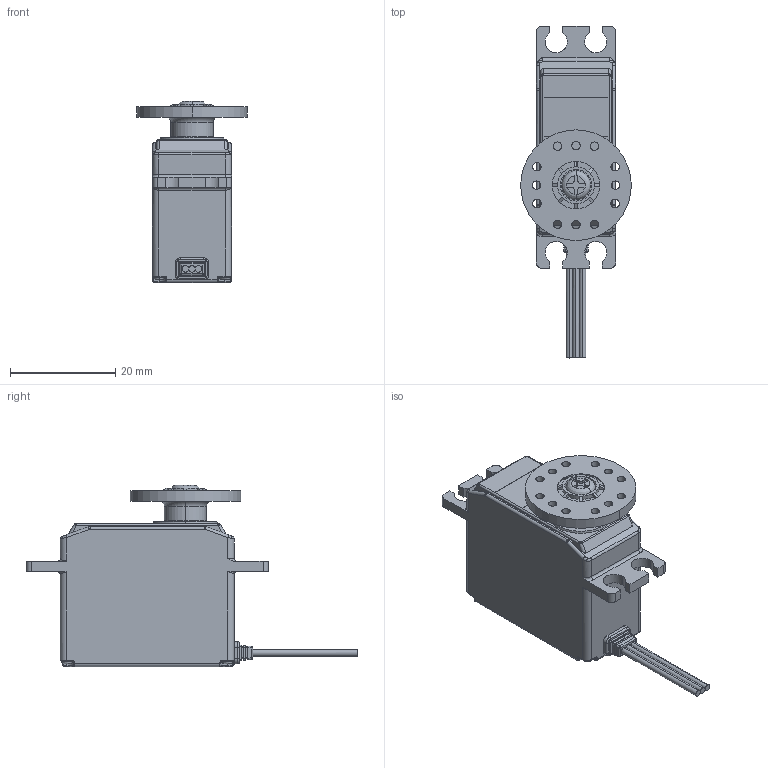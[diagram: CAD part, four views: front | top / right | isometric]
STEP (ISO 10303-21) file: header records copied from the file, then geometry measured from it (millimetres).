
FILE_DESCRIPTION (( 'STEP AP203' ), '1' );
FILE_NAME ('BLA1HD21(3D).STEP', '2022-12-06T04:20:39', ( '' ), ( '' ), 'SwSTEP 2.0', 'SolidWorks 2022', '' );
FILE_SCHEMA (( 'CONFIG_CONTROL_DESIGN' ));
Length unit declared in the file: millimetre
Products named in the file (4): BLA1HD21; BLA1HD21(3D); SCREW M3x6; HORN
Assembly tree (3 placements, depth 2):
  BLA1HD21(3D)
    BLA1HD21
    HORN
    SCREW M3x6
Bounding box: 21 x 63 x 34.4 mm (x, y, z)
Volume: 14466.7 mm3; surface area: 5488.2 mm2
Topology: 3 solids, 3 shells, 443 faces, 1148 edges, 724 vertices
Faces by surface type: cylinder 194, plane 151, bspline 81, cone 13, torus 4
Entity records: 50366 total; most frequent: CARTESIAN_POINT 39925, ORIENTED_EDGE 2286, DIRECTION 1809, EDGE_CURVE 1143, VERTEX_POINT 724, AXIS2_PLACEMENT_3D 658, LINE 493, VECTOR 493
